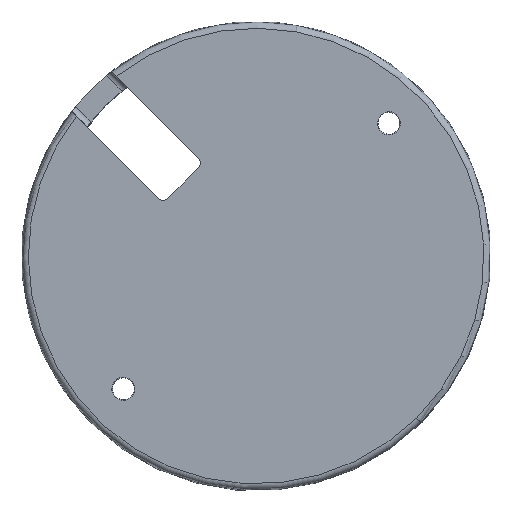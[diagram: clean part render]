
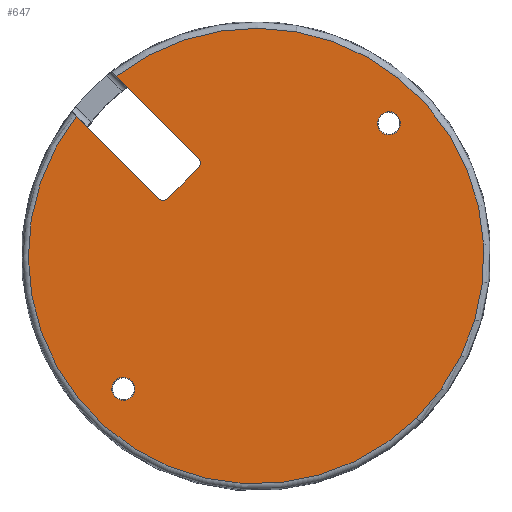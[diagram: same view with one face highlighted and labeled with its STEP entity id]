
A CAD part, top view. The second image highlights one B-rep face of the part: STEP entity #647.
In plain terms, the highlighted planar face has unit normal (0, 0, 1).
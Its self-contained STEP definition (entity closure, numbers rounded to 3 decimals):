
#22 = FACE_BOUND ( 'NONE', #398, .T. ) ;
#33 = EDGE_CURVE ( 'NONE', #611, #230, #1077, .T. ) ;
#47 = EDGE_CURVE ( 'NONE', #1000, #129, #852, .T. ) ;
#55 = ORIENTED_EDGE ( 'NONE', *, *, #152, .F. ) ;
#63 = ORIENTED_EDGE ( 'NONE', *, *, #678, .T. ) ;
#69 = DIRECTION ( 'NONE',  ( 0., 0., 1. ) ) ;
#75 = CARTESIAN_POINT ( 'NONE',  ( 28.308, 53.056, 3.3 ) ) ;
#87 = CARTESIAN_POINT ( 'NONE',  ( 8.777, 59.859, 3.3 ) ) ;
#90 = CARTESIAN_POINT ( 'NONE',  ( 58.713, 58.713, 3.3 ) ) ;
#109 = CARTESIAN_POINT ( 'NONE',  ( 15.141, 66.223, 3.3 ) ) ;
#116 = CARTESIAN_POINT ( 'NONE',  ( 63.078, 11.602, 3.3 ) ) ;
#118 = CIRCLE ( 'NONE', #805, 1.841 ) ;
#125 = ORIENTED_EDGE ( 'NONE', *, *, #893, .T. ) ;
#127 = AXIS2_PLACEMENT_3D ( 'NONE', #525, #1067, #1062 ) ;
#129 = VERTEX_POINT ( 'NONE', #588 ) ;
#132 = VERTEX_POINT ( 'NONE', #931 ) ;
#152 = EDGE_CURVE ( 'NONE', #132, #1134, #886, .T. ) ;
#200 = CARTESIAN_POINT ( 'NONE',  ( 59.921, 60.103, 3.3 ) ) ;
#224 = ORIENTED_EDGE ( 'NONE', *, *, #464, .T. ) ;
#230 = VERTEX_POINT ( 'NONE', #839 ) ;
#241 = VERTEX_POINT ( 'NONE', #1036 ) ;
#245 = LINE ( 'NONE', #592, #785 ) ;
#249 = CARTESIAN_POINT ( 'NONE',  ( 17.495, 17.677, 3.3 ) ) ;
#276 = CARTESIAN_POINT ( 'NONE',  ( 16.287, 16.287, 3.3 ) ) ;
#321 = DIRECTION ( 'NONE',  ( 0.707, -0.707, 0. ) ) ;
#328 = DIRECTION ( 'NONE',  ( -0.789, 0.614, 0. ) ) ;
#341 = AXIS2_PLACEMENT_3D ( 'NONE', #823, #643, #988 ) ;
#354 = CARTESIAN_POINT ( 'NONE',  ( 21.944, 46.692, 3.3 ) ) ;
#365 = PLANE ( 'NONE',  #494 ) ;
#373 = FACE_BOUND ( 'NONE', #897, .T. ) ;
#398 = EDGE_LOOP ( 'NONE', ( #224, #833 ) ) ;
#402 = EDGE_CURVE ( 'NONE', #843, #425, #245, .T. ) ;
#413 = VERTEX_POINT ( 'NONE', #75 ) ;
#425 = VERTEX_POINT ( 'NONE', #780 ) ;
#462 = CARTESIAN_POINT ( 'NONE',  ( 58.713, 58.713, 3.3 ) ) ;
#464 = EDGE_CURVE ( 'NONE', #129, #1000, #118, .T. ) ;
#480 = EDGE_LOOP ( 'NONE', ( #775, #1090, #951, #654, #894, #63, #55 ) ) ;
#491 = CARTESIAN_POINT ( 'NONE',  ( 37.5, 37.5, 3.3 ) ) ;
#494 = AXIS2_PLACEMENT_3D ( 'NONE', #1006, #742, #1079 ) ;
#505 = EDGE_CURVE ( 'NONE', #241, #828, #1048, .T. ) ;
#525 = CARTESIAN_POINT ( 'NONE',  ( 16.287, 16.287, 3.3 ) ) ;
#568 = CARTESIAN_POINT ( 'NONE',  ( 37.5, 37.5, 3.3 ) ) ;
#588 = CARTESIAN_POINT ( 'NONE',  ( 57.505, 57.323, 3.3 ) ) ;
#592 = CARTESIAN_POINT ( 'NONE',  ( 23.358, 46.692, 3.3 ) ) ;
#604 = DIRECTION ( 'NONE',  ( 0.707, 0.707, 0. ) ) ;
#611 = VERTEX_POINT ( 'NONE', #116 ) ;
#622 = DIRECTION ( 'NONE',  ( 0.707, -0.707, 0. ) ) ;
#623 = AXIS2_PLACEMENT_3D ( 'NONE', #491, #69, #328 ) ;
#636 = LINE ( 'NONE', #109, #1073 ) ;
#643 = DIRECTION ( 'NONE',  ( 0., 0., -1. ) ) ;
#647 = ADVANCED_FACE ( 'NONE', ( #811, #22, #373 ), #365, .F. ) ;
#654 = ORIENTED_EDGE ( 'NONE', *, *, #662, .T. ) ;
#662 = EDGE_CURVE ( 'NONE', #413, #425, #1071, .T. ) ;
#668 = AXIS2_PLACEMENT_3D ( 'NONE', #762, #849, #321 ) ;
#678 = EDGE_CURVE ( 'NONE', #843, #1134, #725, .T. ) ;
#690 = CIRCLE ( 'NONE', #623, 36.4 ) ;
#693 = ORIENTED_EDGE ( 'NONE', *, *, #505, .T. ) ;
#720 = EDGE_CURVE ( 'NONE', #132, #611, #690, .T. ) ;
#725 = CIRCLE ( 'NONE', #668, 1. ) ;
#739 = DIRECTION ( 'NONE',  ( 0.707, 0.707, 0. ) ) ;
#742 = DIRECTION ( 'NONE',  ( 0., 0., -1. ) ) ;
#744 = DIRECTION ( 'NONE',  ( -0.789, 0.614, 0. ) ) ;
#762 = CARTESIAN_POINT ( 'NONE',  ( 22.651, 47.399, 3.3 ) ) ;
#775 = ORIENTED_EDGE ( 'NONE', *, *, #720, .T. ) ;
#780 = CARTESIAN_POINT ( 'NONE',  ( 28.308, 51.642, 3.3 ) ) ;
#785 = VECTOR ( 'NONE', #604, 1000. ) ;
#799 = AXIS2_PLACEMENT_3D ( 'NONE', #568, #1107, #744 ) ;
#805 = AXIS2_PLACEMENT_3D ( 'NONE', #90, #1142, #807 ) ;
#807 = DIRECTION ( 'NONE',  ( 0.707, 0.707, 0. ) ) ;
#811 = FACE_OUTER_BOUND ( 'NONE', #480, .T. ) ;
#817 = DIRECTION ( 'NONE',  ( 0., 0., -1. ) ) ;
#823 = CARTESIAN_POINT ( 'NONE',  ( 27.601, 52.349, 3.3 ) ) ;
#828 = VERTEX_POINT ( 'NONE', #249 ) ;
#833 = ORIENTED_EDGE ( 'NONE', *, *, #47, .T. ) ;
#839 = CARTESIAN_POINT ( 'NONE',  ( 15.141, 66.223, 3.3 ) ) ;
#843 = VERTEX_POINT ( 'NONE', #928 ) ;
#849 = DIRECTION ( 'NONE',  ( 0., 0., -1. ) ) ;
#852 = CIRCLE ( 'NONE', #1045, 1.841 ) ;
#881 = AXIS2_PLACEMENT_3D ( 'NONE', #276, #972, #890 ) ;
#886 = LINE ( 'NONE', #87, #904 ) ;
#890 = DIRECTION ( 'NONE',  ( 0.707, 0.707, 0. ) ) ;
#893 = EDGE_CURVE ( 'NONE', #828, #241, #1055, .T. ) ;
#894 = ORIENTED_EDGE ( 'NONE', *, *, #402, .F. ) ;
#897 = EDGE_LOOP ( 'NONE', ( #693, #125 ) ) ;
#904 = VECTOR ( 'NONE', #622, 1000. ) ;
#928 = CARTESIAN_POINT ( 'NONE',  ( 23.358, 46.692, 3.3 ) ) ;
#931 = CARTESIAN_POINT ( 'NONE',  ( 8.777, 59.859, 3.3 ) ) ;
#951 = ORIENTED_EDGE ( 'NONE', *, *, #1023, .T. ) ;
#972 = DIRECTION ( 'NONE',  ( 0., 0., -1. ) ) ;
#988 = DIRECTION ( 'NONE',  ( 0.707, 0.707, 0. ) ) ;
#993 = DIRECTION ( 'NONE',  ( 0.707, -0.707, 0. ) ) ;
#1000 = VERTEX_POINT ( 'NONE', #200 ) ;
#1006 = CARTESIAN_POINT ( 'NONE',  ( 37.5, 37.5, 3.3 ) ) ;
#1023 = EDGE_CURVE ( 'NONE', #230, #413, #636, .T. ) ;
#1036 = CARTESIAN_POINT ( 'NONE',  ( 15.079, 14.897, 3.3 ) ) ;
#1045 = AXIS2_PLACEMENT_3D ( 'NONE', #462, #817, #739 ) ;
#1048 = CIRCLE ( 'NONE', #881, 1.841 ) ;
#1055 = CIRCLE ( 'NONE', #127, 1.841 ) ;
#1062 = DIRECTION ( 'NONE',  ( 0.707, 0.707, 0. ) ) ;
#1067 = DIRECTION ( 'NONE',  ( 0., 0., -1. ) ) ;
#1071 = CIRCLE ( 'NONE', #341, 1. ) ;
#1073 = VECTOR ( 'NONE', #993, 1000. ) ;
#1077 = CIRCLE ( 'NONE', #799, 36.4 ) ;
#1079 = DIRECTION ( 'NONE',  ( 0.707, -0.707, 0. ) ) ;
#1090 = ORIENTED_EDGE ( 'NONE', *, *, #33, .T. ) ;
#1107 = DIRECTION ( 'NONE',  ( 0., 0., 1. ) ) ;
#1134 = VERTEX_POINT ( 'NONE', #354 ) ;
#1142 = DIRECTION ( 'NONE',  ( 0., 0., -1. ) ) ;
